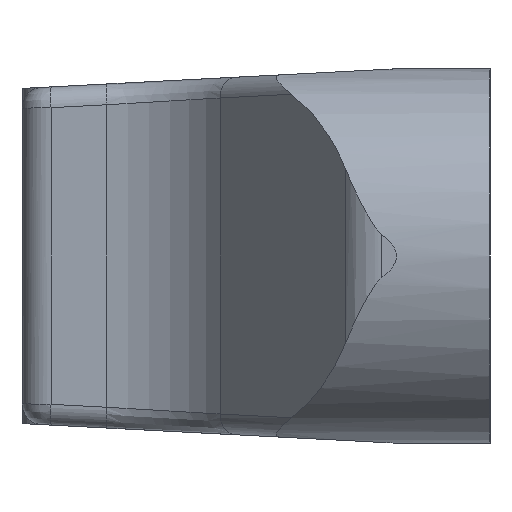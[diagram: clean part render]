
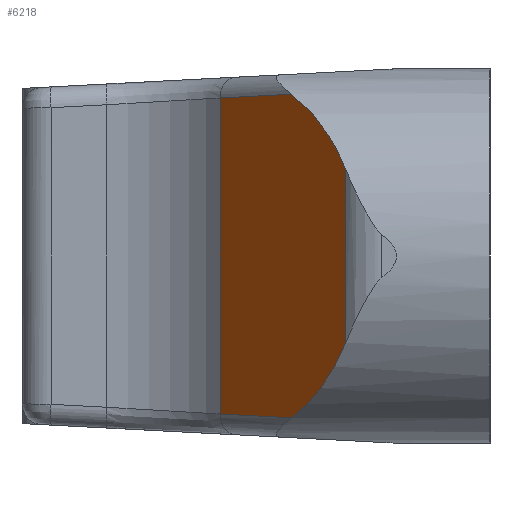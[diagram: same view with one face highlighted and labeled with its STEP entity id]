
A CAD part, left-side view. The second image highlights one B-rep face of the part: STEP entity #6218.
In plain terms, the highlighted planar face has unit normal (-0.602, 0.798, 0).
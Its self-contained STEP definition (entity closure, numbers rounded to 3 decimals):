
#134 = EDGE_LOOP ( 'NONE', ( #7526, #3890, #8874, #5006, #1372, #281 ) ) ;
#281 = ORIENTED_EDGE ( 'NONE', *, *, #1972, .F. ) ;
#298 = CARTESIAN_POINT ( 'NONE',  ( 4.47, 5.032, -7.777 ) ) ;
#310 = CARTESIAN_POINT ( 'NONE',  ( 4.47, 5.032, 7.777 ) ) ;
#355 = LINE ( 'NONE', #605, #4218 ) ;
#403 = DIRECTION ( 'NONE',  ( 0.798, 0.602, 0. ) ) ;
#605 = CARTESIAN_POINT ( 'NONE',  ( 9.037, 8.476, 9. ) ) ;
#634 = VERTEX_POINT ( 'NONE', #5335 ) ;
#645 = DIRECTION ( 'NONE',  ( 0., 0., -1. ) ) ;
#1218 = CARTESIAN_POINT ( 'NONE',  ( 9.037, 8.476, -7.596 ) ) ;
#1363 = DIRECTION ( 'NONE',  ( 0.798, 0.602, 0.032 ) ) ;
#1372 = ORIENTED_EDGE ( 'NONE', *, *, #9922, .F. ) ;
#1915 = PLANE ( 'NONE',  #3643 ) ;
#1972 = EDGE_CURVE ( 'NONE', #3433, #634, #9382, .T. ) ;
#2225 = CARTESIAN_POINT ( 'NONE',  ( 9.037, 8.476, 7.596 ) ) ;
#2266 = CARTESIAN_POINT ( 'NONE',  ( 1.021, 2.431, 4.163 ) ) ;
#2385 = CARTESIAN_POINT ( 'NONE',  ( 1.021, 2.431, 9. ) ) ;
#2668 = VECTOR ( 'NONE', #5168, 1000. ) ;
#2749 =( BOUNDED_CURVE ( )  B_SPLINE_CURVE ( 3, ( #6864, #4565, #6900, #2266 ),
 .UNSPECIFIED., .F., .F. ) 
 B_SPLINE_CURVE_WITH_KNOTS ( ( 4, 4 ),
 ( 5.24, 5.802 ),
 .UNSPECIFIED. ) 
 CURVE ( )  GEOMETRIC_REPRESENTATION_ITEM ( )  RATIONAL_B_SPLINE_CURVE ( ( 1., 0.974, 0.974, 1. ) ) 
 REPRESENTATION_ITEM ( '' )  );
#3433 = VERTEX_POINT ( 'NONE', #5431 ) ;
#3523 = VERTEX_POINT ( 'NONE', #8636 ) ;
#3643 = AXIS2_PLACEMENT_3D ( 'NONE', #9649, #5036, #403 ) ;
#3890 = ORIENTED_EDGE ( 'NONE', *, *, #8194, .F. ) ;
#4120 = CARTESIAN_POINT ( 'NONE',  ( 1.812, 3.028, -5.679 ) ) ;
#4155 = CARTESIAN_POINT ( 'NONE',  ( 1.021, 2.431, -4.163 ) ) ;
#4218 = VECTOR ( 'NONE', #6788, 1000. ) ;
#4339 = VERTEX_POINT ( 'NONE', #2225 ) ;
#4534 = LINE ( 'NONE', #5959, #8392 ) ;
#4565 = CARTESIAN_POINT ( 'NONE',  ( 2.992, 3.918, 6.916 ) ) ;
#4937 = CARTESIAN_POINT ( 'NONE',  ( 2.992, 3.918, -6.916 ) ) ;
#5006 = ORIENTED_EDGE ( 'NONE', *, *, #9597, .F. ) ;
#5036 = DIRECTION ( 'NONE',  ( 0.602, -0.798, 0. ) ) ;
#5168 = DIRECTION ( 'NONE',  ( -0.798, -0.602, 0.032 ) ) ;
#5283 = VECTOR ( 'NONE', #645, 1000. ) ;
#5335 = CARTESIAN_POINT ( 'NONE',  ( 1.021, 2.431, -4.163 ) ) ;
#5431 = CARTESIAN_POINT ( 'NONE',  ( 1.021, 2.431, 4.163 ) ) ;
#5566 = EDGE_CURVE ( 'NONE', #6753, #3433, #2749, .T. ) ;
#5959 = CARTESIAN_POINT ( 'NONE',  ( 6.507, 6.568, -7.696 ) ) ;
#6218 = ADVANCED_FACE ( 'NONE', ( #9024 ), #1915, .F. ) ;
#6753 = VERTEX_POINT ( 'NONE', #310 ) ;
#6788 = DIRECTION ( 'NONE',  ( 0., 0., -1. ) ) ;
#6864 = CARTESIAN_POINT ( 'NONE',  ( 4.47, 5.032, 7.777 ) ) ;
#6900 = CARTESIAN_POINT ( 'NONE',  ( 1.812, 3.028, 5.679 ) ) ;
#7273 = VERTEX_POINT ( 'NONE', #1218 ) ;
#7526 = ORIENTED_EDGE ( 'NONE', *, *, #5566, .F. ) ;
#7709 =( BOUNDED_CURVE ( )  B_SPLINE_CURVE ( 3, ( #4155, #4120, #4937, #298 ),
 .UNSPECIFIED., .F., .F. ) 
 B_SPLINE_CURVE_WITH_KNOTS ( ( 4, 4 ),
 ( 0.481, 1.043 ),
 .UNSPECIFIED. ) 
 CURVE ( )  GEOMETRIC_REPRESENTATION_ITEM ( )  RATIONAL_B_SPLINE_CURVE ( ( 1., 0.974, 0.974, 1. ) ) 
 REPRESENTATION_ITEM ( '' )  );
#8194 = EDGE_CURVE ( 'NONE', #4339, #6753, #8570, .T. ) ;
#8234 = EDGE_CURVE ( 'NONE', #4339, #7273, #355, .T. ) ;
#8392 = VECTOR ( 'NONE', #1363, 1000. ) ;
#8570 = LINE ( 'NONE', #9047, #2668 ) ;
#8636 = CARTESIAN_POINT ( 'NONE',  ( 4.47, 5.032, -7.777 ) ) ;
#8874 = ORIENTED_EDGE ( 'NONE', *, *, #8234, .T. ) ;
#9024 = FACE_OUTER_BOUND ( 'NONE', #134, .T. ) ;
#9047 = CARTESIAN_POINT ( 'NONE',  ( 9.013, 8.458, 7.597 ) ) ;
#9382 = LINE ( 'NONE', #2385, #5283 ) ;
#9597 = EDGE_CURVE ( 'NONE', #3523, #7273, #4534, .T. ) ;
#9649 = CARTESIAN_POINT ( 'NONE',  ( 9.037, 8.476, 9. ) ) ;
#9922 = EDGE_CURVE ( 'NONE', #634, #3523, #7709, .T. ) ;
